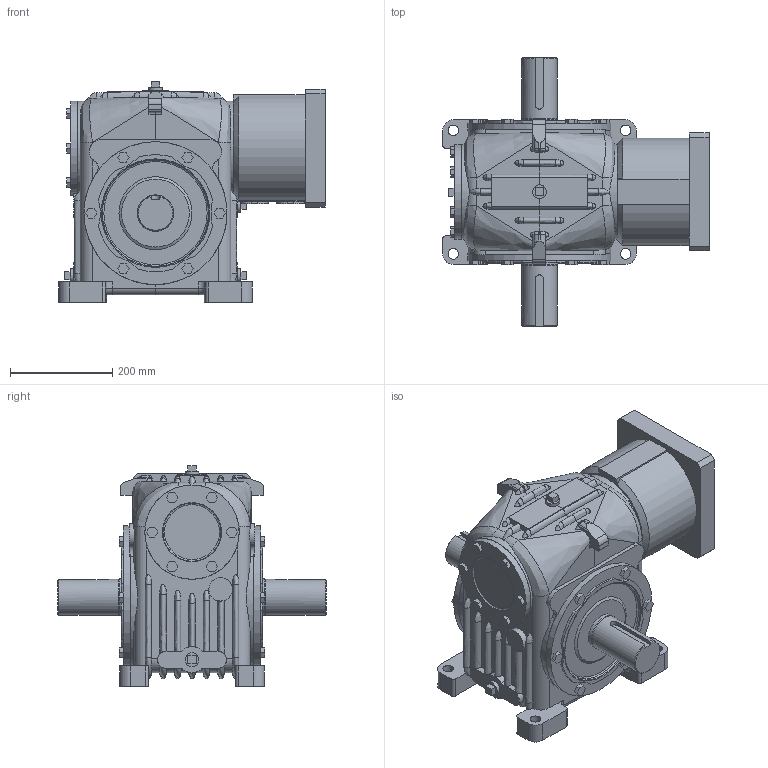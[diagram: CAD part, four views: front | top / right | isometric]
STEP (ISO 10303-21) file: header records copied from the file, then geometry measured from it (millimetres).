
FILE_DESCRIPTION(/* description */ ('Unknown'),/* implementation_level */ '2;1');
FILE_NAME(/* name */ 'O50CB-3-Q01NBD-',/* time_stamp */ '2024-11-21T11:23:30-05:00',/* author */ ('Unknown'),/* organization */ ('Unknown'),/* preprocessor_version */ 'ST-DEVELOPER v19.4',/* originating_system */ 'Solid Edge',/* authorisation */ 'Unknown');
FILE_SCHEMA (('AUTOMOTIVE_DESIGN {1 0 10303 214 3 1 1}'));
Length unit declared in the file: millimetre
Products named in the file (7): O50CB-3-Q01NBD-; 50-1-CP; 50-OUTS; 50-WCAP; 50-SM20-CP; MP4Q-01-CP; KM400-N-32
Assembly tree (7 placements, depth 2):
  O50CB-3-Q01NBD-
    50-1-CP
    50-OUTS  x2
    50-WCAP
    50-SM20-CP
    MP4Q-01-CP
    KM400-N-32
Bounding box: 520.51 x 523.82 x 431.74 mm (x, y, z)
Volume: 30458288.5 mm3; surface area: 1653252 mm2
Topology: 7 solids, 7 shells, 682 faces, 1745 edges, 1150 vertices
Faces by surface type: plane 376, cylinder 178, bspline 103, cone 16, torus 9
Full cylindrical faces by diameter (mm): 0.254 x9, 8.376 x4, 12.7 x8, 19.05 x6, 20.637 x4, 26.924 x4, 38.087 x1, 38.1 x1, 39.688 x1, 45.72 x2, 69.837 x2, 71.437 x2, 94 x1, 98.425 x1, 122 x1, 127 x1, 127.508 x1, 130 x1, 139 x1, 161.925 x1, 184.15 x3, 193.675 x1, 199.998 x1, 200 x1, 279.4 x2
Entity records: 28807 total; most frequent: CARTESIAN_POINT 13768, ORIENTED_EDGE 2930, DIRECTION 2539, EDGE_CURVE 1465, VERTEX_POINT 1005, AXIS2_PLACEMENT_3D 891, LINE 757, VECTOR 757
